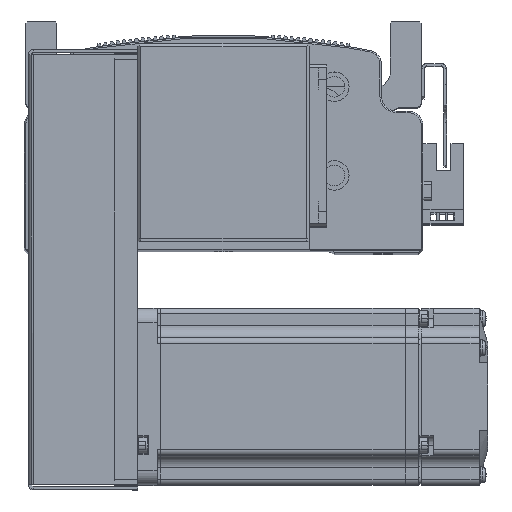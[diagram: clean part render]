
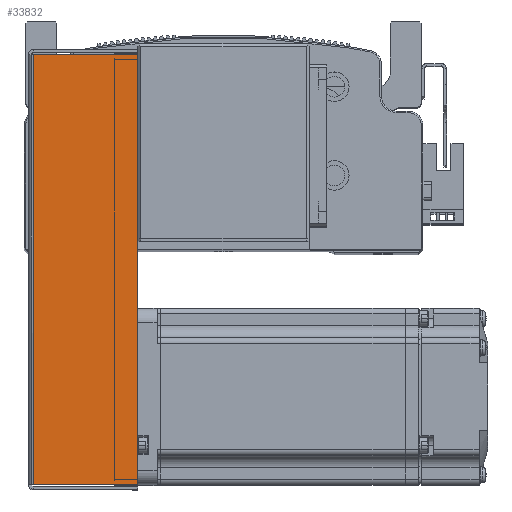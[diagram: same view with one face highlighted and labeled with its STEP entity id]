
A CAD part, top view. The second image highlights one B-rep face of the part: STEP entity #33832.
In plain terms, the highlighted planar face has unit normal (0, 0, 1) as drawn and (0, 0, -1) by its records, which use the part's own axes.
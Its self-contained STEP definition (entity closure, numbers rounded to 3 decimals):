
#6362 = DIRECTION ( 'NONE',  ( 0., 1., 0. ) ) ;
#6387 = CARTESIAN_POINT ( 'NONE',  ( -72.793, 0., -34.5 ) ) ;
#6443 = DIRECTION ( 'NONE',  ( 1., 0., 0. ) ) ;
#6485 = CARTESIAN_POINT ( 'NONE',  ( 0., 36., -34.5 ) ) ;
#7007 = DIRECTION ( 'NONE',  ( 1., 0., 0. ) ) ;
#7028 = CARTESIAN_POINT ( 'NONE',  ( 74.5, 0.737, -34.5 ) ) ;
#7397 = CARTESIAN_POINT ( 'NONE',  ( 72.793, 0., -34.5 ) ) ;
#7412 = DIRECTION ( 'NONE',  ( 0., 1., 0. ) ) ;
#13930 = LINE ( 'NONE', #7397, #13931 ) ;
#13931 = VECTOR ( 'NONE', #7412, 1000. ) ;
#21335 = VERTEX_POINT ( 'NONE', #23073 ) ;
#21370 = VERTEX_POINT ( 'NONE', #23090 ) ;
#21381 = VERTEX_POINT ( 'NONE', #23108 ) ;
#21389 = VERTEX_POINT ( 'NONE', #23109 ) ;
#23073 = CARTESIAN_POINT ( 'NONE',  ( -72.793, 36., -34.5 ) ) ;
#23090 = CARTESIAN_POINT ( 'NONE',  ( -72.793, 0.737, -34.5 ) ) ;
#23108 = CARTESIAN_POINT ( 'NONE',  ( 72.793, 0.737, -34.5 ) ) ;
#23109 = CARTESIAN_POINT ( 'NONE',  ( 72.793, 36., -34.5 ) ) ;
#28197 = LINE ( 'NONE', #7028, #28357 ) ;
#28317 = FACE_OUTER_BOUND ( 'NONE', #38523, .T. ) ;
#28357 = VECTOR ( 'NONE', #7007, 1000. ) ;
#29271 = LINE ( 'NONE', #6387, #29276 ) ;
#29276 = VECTOR ( 'NONE', #6362, 1000. ) ;
#29277 = VECTOR ( 'NONE', #6443, 1000. ) ;
#29287 = LINE ( 'NONE', #6485, #29277 ) ;
#30047 = DIRECTION ( 'NONE',  ( 0., -1., 0. ) ) ;
#30070 = CARTESIAN_POINT ( 'NONE',  ( 0., 0., -34.5 ) ) ;
#30072 = PLANE ( 'NONE',  #62877 ) ;
#30085 = DIRECTION ( 'NONE',  ( 0., 0., 1. ) ) ;
#33832 = ADVANCED_FACE ( 'NONE', ( #28317 ), #30072, .F. ) ;
#38523 = EDGE_LOOP ( 'NONE', ( #40382, #40368, #40203, #40314 ) ) ;
#39881 = EDGE_CURVE ( 'NONE', #21370, #21335, #29271, .T. ) ;
#39897 = EDGE_CURVE ( 'NONE', #21335, #21389, #29287, .T. ) ;
#39985 = EDGE_CURVE ( 'NONE', #21370, #21381, #28197, .T. ) ;
#40066 = EDGE_CURVE ( 'NONE', #21381, #21389, #13930, .T. ) ;
#40203 = ORIENTED_EDGE ( 'NONE', *, *, #39897, .T. ) ;
#40314 = ORIENTED_EDGE ( 'NONE', *, *, #40066, .F. ) ;
#40368 = ORIENTED_EDGE ( 'NONE', *, *, #39881, .T. ) ;
#40382 = ORIENTED_EDGE ( 'NONE', *, *, #39985, .F. ) ;
#62877 = AXIS2_PLACEMENT_3D ( 'NONE', #30070, #30085, #30047 ) ;
